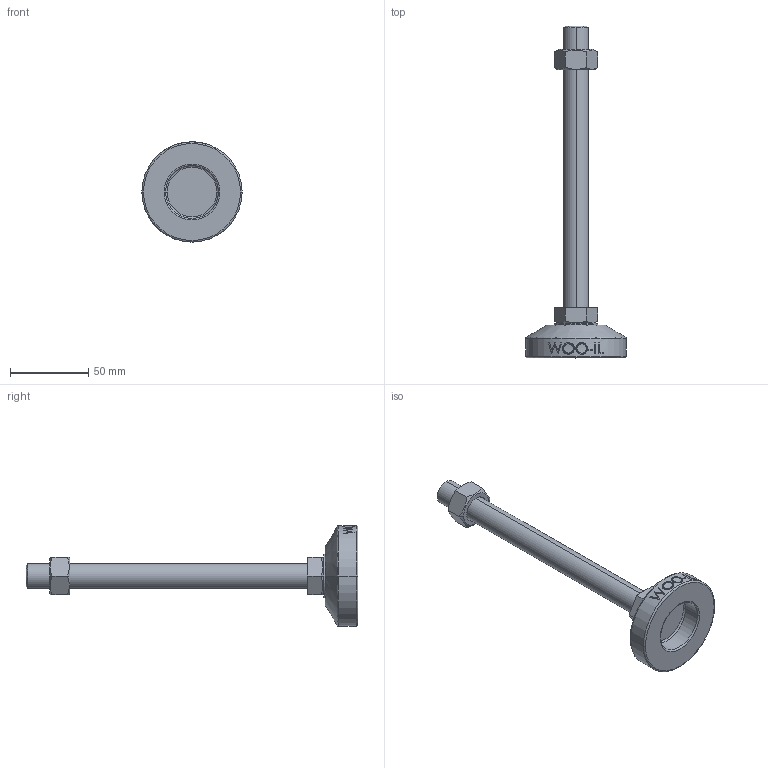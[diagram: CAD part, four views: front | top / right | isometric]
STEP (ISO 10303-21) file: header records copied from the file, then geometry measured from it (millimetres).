
FILE_DESCRIPTION (( 'STEP AP214' ), '1' );
FILE_NAME ('MFZ64-M16-180.step', '2021-01-15T07:06:19', ( '' ), ( '' ), 'SwSTEP 2.0', 'SolidWorks 2019', '' );
FILE_SCHEMA (( 'AUTOMOTIVE_DESIGN' ));
Length unit declared in the file: millimetre
Products named in the file (2): MFZ64-M16-180
Bounding box: 64 x 212 x 64 mm (x, y, z)
Volume: 92582.8 mm3; surface area: 23644.5 mm2
Topology: 3 solids, 3 shells, 106 faces, 243 edges, 154 vertices
Faces by surface type: plane 48, cylinder 18, bspline 16, cone 14, torus 10
Entity records: 4520 total; most frequent: CARTESIAN_POINT 2177, ORIENTED_EDGE 486, DIRECTION 439, EDGE_CURVE 243, AXIS2_PLACEMENT_3D 170, VERTEX_POINT 154, EDGE_LOOP 119, ADVANCED_FACE 106
